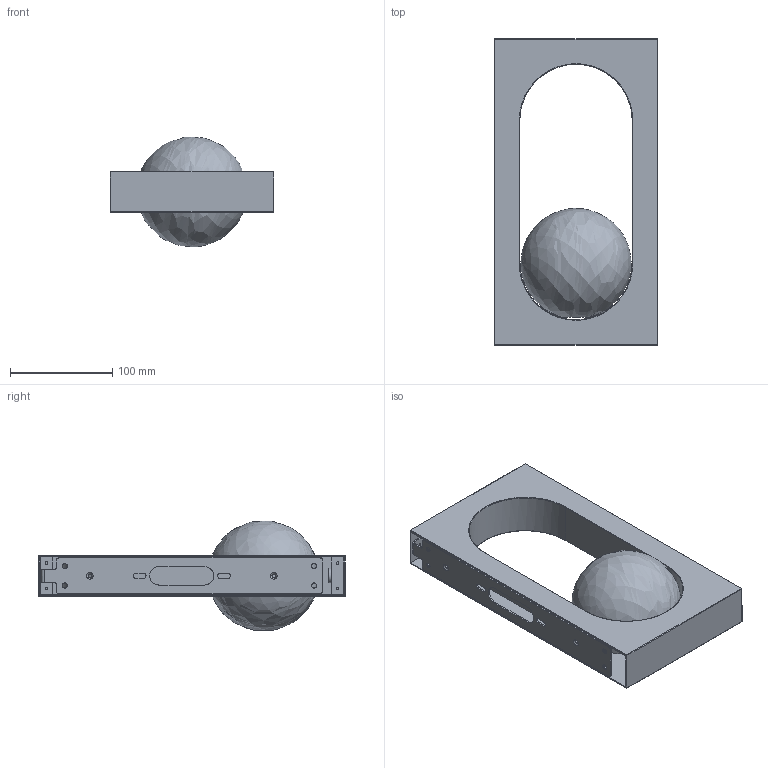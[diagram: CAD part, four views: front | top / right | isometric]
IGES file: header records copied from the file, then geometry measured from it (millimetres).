
Global section: file name: MYTHOS WALL; native system: Autodesk Inventor 2023; preprocessor: unknown; author: Peter Larkam; date: 20240715.140548; units: millimetre
Bounding box: 160 x 300 x 107.63 mm (x, y, z)
Volume: 254771.3 mm3; surface area: 273469.1 mm2
Topology: 3 solids, 3 shells, 117 faces, 311 edges, 199 vertices
Faces by surface type: bspline 117
